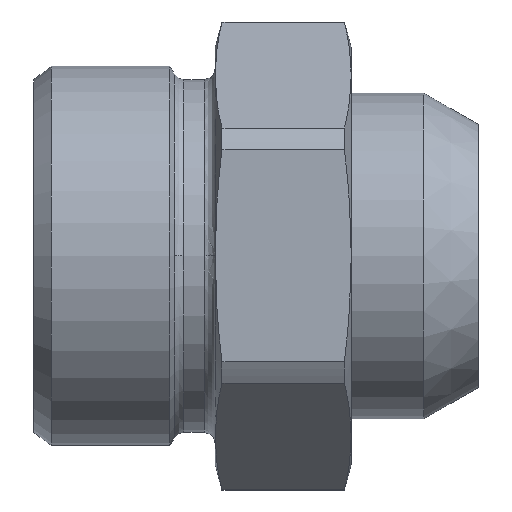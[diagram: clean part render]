
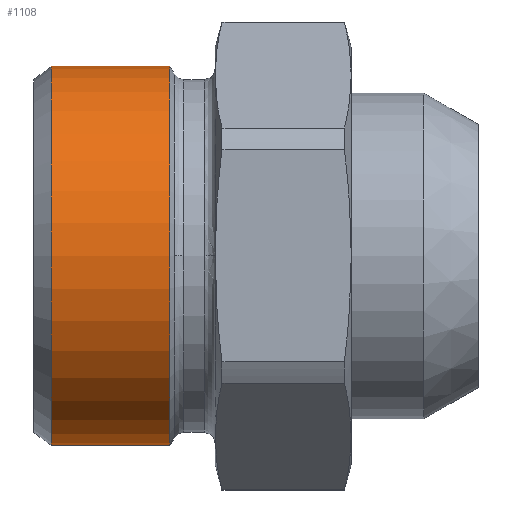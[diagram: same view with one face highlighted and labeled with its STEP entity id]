
A CAD part, top view. The second image highlights one B-rep face of the part: STEP entity #1108.
In plain terms, the highlighted cylindrical face has radius 20.91 mm (diameter 41.82 mm), a partial arc.
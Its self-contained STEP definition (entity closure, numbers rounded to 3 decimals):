
#442=CARTESIAN_POINT('',(0.,-20.91,25.563));
#443=VERTEX_POINT('',#442);
#444=CARTESIAN_POINT('',(0.,-20.91,12.493));
#445=VERTEX_POINT('',#444);
#446=CARTESIAN_POINT('',(0.,-20.91,25.563));
#447=DIRECTION('',(0.0,0.0,-1.0));
#448=VECTOR('',#447,13.07);
#449=LINE('',#446,#448);
#450=EDGE_CURVE('',#443,#445,#449,.T.);
#452=CARTESIAN_POINT('',(0.,20.91,25.563));
#453=VERTEX_POINT('',#452);
#461=CARTESIAN_POINT('',(0.,20.91,12.493));
#462=VERTEX_POINT('',#461);
#463=CARTESIAN_POINT('',(0.,20.91,12.493));
#464=DIRECTION('',(0.0,0.0,1.0));
#465=VECTOR('',#464,13.07);
#466=LINE('',#463,#465);
#467=EDGE_CURVE('',#462,#453,#466,.T.);
#984=CARTESIAN_POINT('',(0.,0.,12.493));
#985=DIRECTION('',(0.0,0.0,-1.0));
#986=DIRECTION('',(0.0,-1.0,0.0));
#987=AXIS2_PLACEMENT_3D('',#984,#985,#986);
#988=CIRCLE('',#987,20.91);
#989=EDGE_CURVE('',#462,#445,#988,.T.);
#1085=CARTESIAN_POINT('',(0.,0.,25.563));
#1086=DIRECTION('',(0.0,0.0,-1.0));
#1087=DIRECTION('',(0.0,-1.0,0.0));
#1088=AXIS2_PLACEMENT_3D('',#1085,#1086,#1087);
#1089=CIRCLE('',#1088,20.91);
#1090=EDGE_CURVE('',#453,#443,#1089,.T.);
#1097=CARTESIAN_POINT('',(0.,0.,19.028));
#1098=DIRECTION('',(0.,0.,-1.0));
#1099=DIRECTION('',(0.0,-1.0,0.0));
#1100=AXIS2_PLACEMENT_3D('',#1097,#1098,#1099);
#1101=CYLINDRICAL_SURFACE('',#1100,20.91);
#1102=ORIENTED_EDGE('',*,*,#450,.T.);
#1103=ORIENTED_EDGE('',*,*,#989,.F.);
#1104=ORIENTED_EDGE('',*,*,#467,.T.);
#1105=ORIENTED_EDGE('',*,*,#1090,.T.);
#1106=EDGE_LOOP('',(#1102,#1103,#1104,#1105));
#1107=FACE_OUTER_BOUND('',#1106,.T.);
#1108=ADVANCED_FACE('',(#1107),#1101,.T.);
